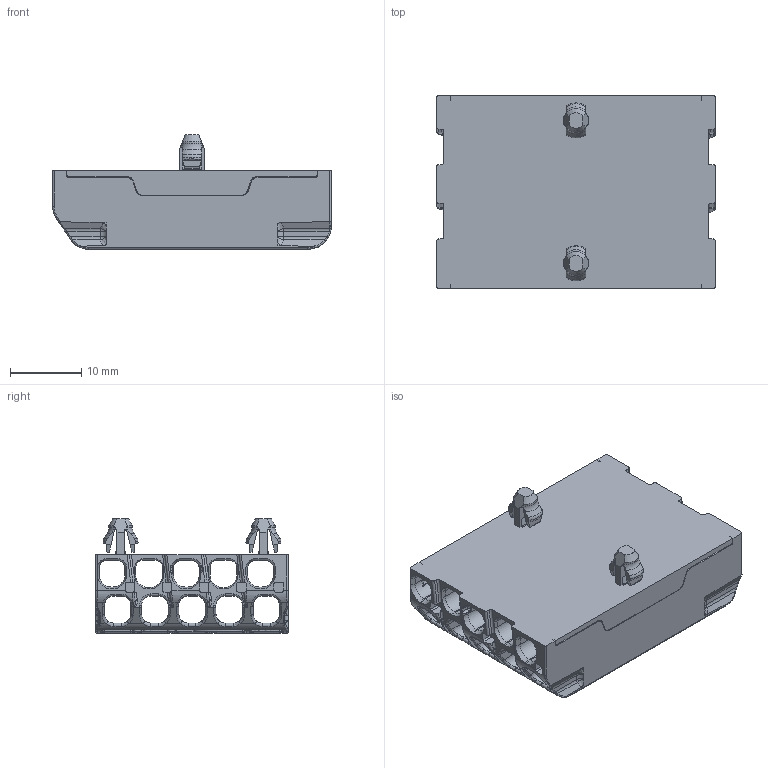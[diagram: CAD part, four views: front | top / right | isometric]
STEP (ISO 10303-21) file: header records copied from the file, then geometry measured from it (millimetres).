
FILE_DESCRIPTION(/* description */ ('Unknown'),/* implementation_level */ '2;1');
FILE_NAME(/* name */ '022-F0A-03',/* time_stamp */ '2023-07-31T09:26:35+02:00',/* author */ ('Unknown'),/* organization */ ('Unknown'),/* preprocessor_version */ 'ST-DEVELOPER v16.7',/* originating_system */ 'Solid Edge',/* authorisation */ 'Unknown');
FILE_SCHEMA (('AUTOMOTIVE_DESIGN {1 0 10303 214 3 1 1}'));
Products named in the file (1): 022-F0A-03
Bounding box: 39 x 26.95 x 16 mm (x, y, z)
Volume: 6210.7 mm3; surface area: 9036.3 mm2
Topology: 1 solids, 1 shells, 2718 faces, 7497 edges, 4799 vertices
Faces by surface type: plane 1703, cylinder 577, bspline 220, torus 118, cone 67, sphere 33
Entity records: 120913 total; most frequent: CARTESIAN_POINT 34943, ORIENTED_EDGE 14936, DIRECTION 12339, EDGE_CURVE 7468, LINE 5337, VECTOR 5337, VERTEX_POINT 4797, AXIS2_PLACEMENT_3D 3501
